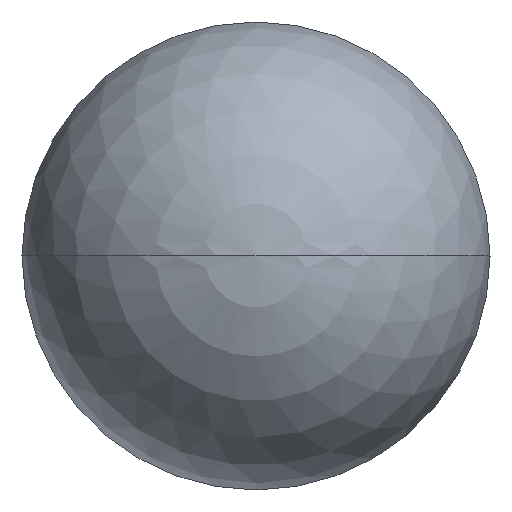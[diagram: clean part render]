
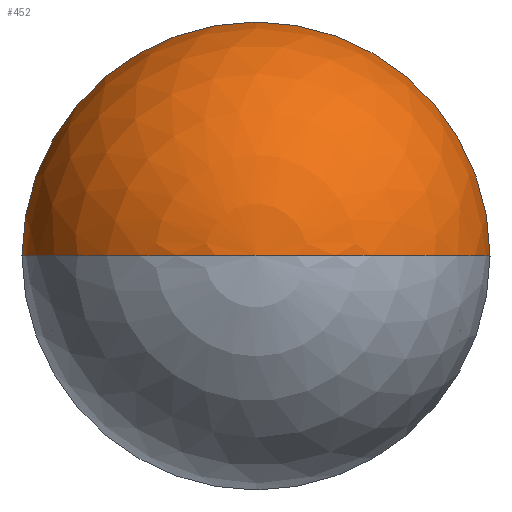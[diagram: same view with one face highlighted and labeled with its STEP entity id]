
A CAD part, top view. The second image highlights one B-rep face of the part: STEP entity #452.
In plain terms, the highlighted spherical face has radius 41.5 mm.
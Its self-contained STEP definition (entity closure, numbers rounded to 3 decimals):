
#341=CARTESIAN_POINT('',(0.,0.,-14.494));
#342=DIRECTION('',(0.,0.,-1.));
#343=DIRECTION('',(-1.,0.,0.));
#344=AXIS2_PLACEMENT_3D('',#341,#342,#343);
#346=CARTESIAN_POINT('',(0.,0.,-14.494));
#347=DIRECTION('',(0.,0.,-1.));
#348=DIRECTION('',(-1.,0.001,0.));
#349=AXIS2_PLACEMENT_3D('',#346,#347,#348);
#361=CARTESIAN_POINT('',(0.,0.,-15.));
#362=DIRECTION('',(0.,1.,0.));
#363=DIRECTION('',(-1.,0.,0.012));
#364=AXIS2_PLACEMENT_3D('',#361,#362,#363);
#366=CARTESIAN_POINT('',(0.,0.,-15.));
#367=DIRECTION('',(0.,1.,0.));
#368=DIRECTION('',(0.,0.,1.));
#369=AXIS2_PLACEMENT_3D('',#366,#367,#368);
#387=CARTESIAN_POINT('',(-41.497,0.023,
-14.494));
#388=CARTESIAN_POINT('',(41.497,0.,
-14.494));
#389=VERTEX_POINT('',#387);
#390=VERTEX_POINT('',#388);
#391=CARTESIAN_POINT('',(-41.497,0.,
-14.494));
#392=VERTEX_POINT('',#391);
#393=CARTESIAN_POINT('',(0.,0.,26.5));
#394=VERTEX_POINT('',#393);
#437=CARTESIAN_POINT('',(0.,0.,-15.));
#438=DIRECTION('',(0.,0.,1.));
#439=DIRECTION('',(-1.,0.,0.));
#440=AXIS2_PLACEMENT_3D('',#437,#438,#439);
#441=SPHERICAL_SURFACE('',#440,41.5);
#443=ORIENTED_EDGE('',*,*,#442,.T.);
#445=ORIENTED_EDGE('',*,*,#444,.T.);
#447=ORIENTED_EDGE('',*,*,#446,.F.);
#449=ORIENTED_EDGE('',*,*,#448,.F.);
#450=EDGE_LOOP('',(#443,#445,#447,#449));
#451=FACE_OUTER_BOUND('',#450,.F.);
#452=ADVANCED_FACE('',(#451),#441,.T.);
#345=CIRCLE('',#344,41.497);
#350=CIRCLE('',#349,41.497);
#365=CIRCLE('',#364,41.5);
#370=CIRCLE('',#369,41.5);
#442=EDGE_CURVE('',#392,#389,#345,.T.);
#444=EDGE_CURVE('',#389,#390,#350,.T.);
#446=EDGE_CURVE('',#394,#390,#370,.T.);
#448=EDGE_CURVE('',#392,#394,#365,.T.);
